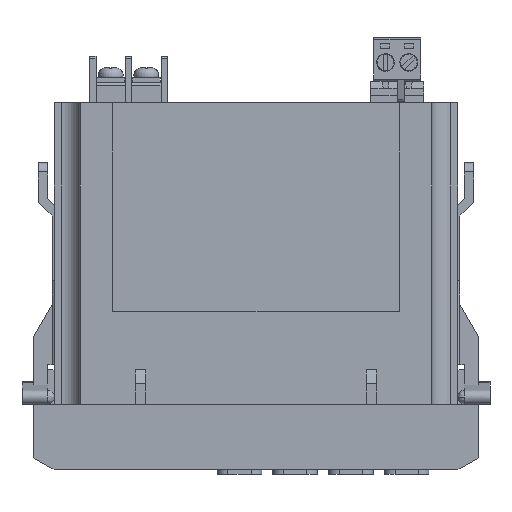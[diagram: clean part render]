
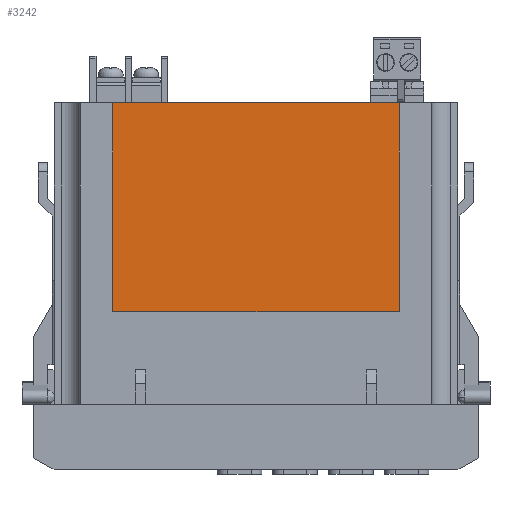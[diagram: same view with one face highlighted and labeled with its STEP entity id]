
A CAD part, front view. The second image highlights one B-rep face of the part: STEP entity #3242.
In plain terms, the highlighted planar face has unit normal (0, -1, 0).
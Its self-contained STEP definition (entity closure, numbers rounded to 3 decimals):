
#541 = DIRECTION ( 'NONE',  ( 0., 0., -1. ) ) ;
#3242 = ADVANCED_FACE ( 'NONE', ( #14798 ), #14746, .T. ) ;
#6781 = CARTESIAN_POINT ( 'NONE',  ( -39.425, -55.55, 0. ) ) ;
#7025 = CARTESIAN_POINT ( 'NONE',  ( -39.425, -55.55, -45. ) ) ;
#7175 = AXIS2_PLACEMENT_3D ( 'NONE', #23979, #53622, #541 ) ;
#9267 = VERTEX_POINT ( 'NONE', #46309 ) ;
#14746 = PLANE ( 'NONE',  #7175 ) ;
#14798 = FACE_OUTER_BOUND ( 'NONE', #24596, .T. ) ;
#18453 = LINE ( 'NONE', #38007, #55533 ) ;
#18910 = LINE ( 'NONE', #60723, #41596 ) ;
#22006 = DIRECTION ( 'NONE',  ( 0., 0., -1. ) ) ;
#23979 = CARTESIAN_POINT ( 'NONE',  ( 0., -55.55, 0. ) ) ;
#24048 = LINE ( 'NONE', #62626, #38458 ) ;
#24062 = EDGE_CURVE ( 'NONE', #52616, #34531, #24048, .T. ) ;
#24596 = EDGE_LOOP ( 'NONE', ( #46443, #35145, #47008, #31307 ) ) ;
#30956 = CARTESIAN_POINT ( 'NONE',  ( 22.275, -55.55, 0. ) ) ;
#31307 = ORIENTED_EDGE ( 'NONE', *, *, #38068, .T. ) ;
#34270 = DIRECTION ( 'NONE',  ( -1., 0., 0. ) ) ;
#34531 = VERTEX_POINT ( 'NONE', #6781 ) ;
#35145 = ORIENTED_EDGE ( 'NONE', *, *, #24062, .T. ) ;
#38007 = CARTESIAN_POINT ( 'NONE',  ( 22.275, -55.55, 0. ) ) ;
#38068 = EDGE_CURVE ( 'NONE', #45387, #9267, #50529, .T. ) ;
#38458 = VECTOR ( 'NONE', #34270, 1000. ) ;
#40676 = VECTOR ( 'NONE', #48821, 1000. ) ;
#41596 = VECTOR ( 'NONE', #22006, 1000. ) ;
#43207 = EDGE_CURVE ( 'NONE', #34531, #45387, #18910, .T. ) ;
#43512 = DIRECTION ( 'NONE',  ( 0., 0., 1. ) ) ;
#45387 = VERTEX_POINT ( 'NONE', #7025 ) ;
#46309 = CARTESIAN_POINT ( 'NONE',  ( 22.275, -55.55, -45. ) ) ;
#46443 = ORIENTED_EDGE ( 'NONE', *, *, #50079, .T. ) ;
#47008 = ORIENTED_EDGE ( 'NONE', *, *, #43207, .T. ) ;
#48821 = DIRECTION ( 'NONE',  ( 1., 0., 0. ) ) ;
#50079 = EDGE_CURVE ( 'NONE', #9267, #52616, #18453, .T. ) ;
#50529 = LINE ( 'NONE', #53886, #40676 ) ;
#52616 = VERTEX_POINT ( 'NONE', #30956 ) ;
#53622 = DIRECTION ( 'NONE',  ( 0., -1., 0. ) ) ;
#53886 = CARTESIAN_POINT ( 'NONE',  ( 0., -55.55, -45. ) ) ;
#55533 = VECTOR ( 'NONE', #43512, 1000. ) ;
#60723 = CARTESIAN_POINT ( 'NONE',  ( -39.425, -55.55, 0. ) ) ;
#62626 = CARTESIAN_POINT ( 'NONE',  ( -50.456, -55.55, 0. ) ) ;
